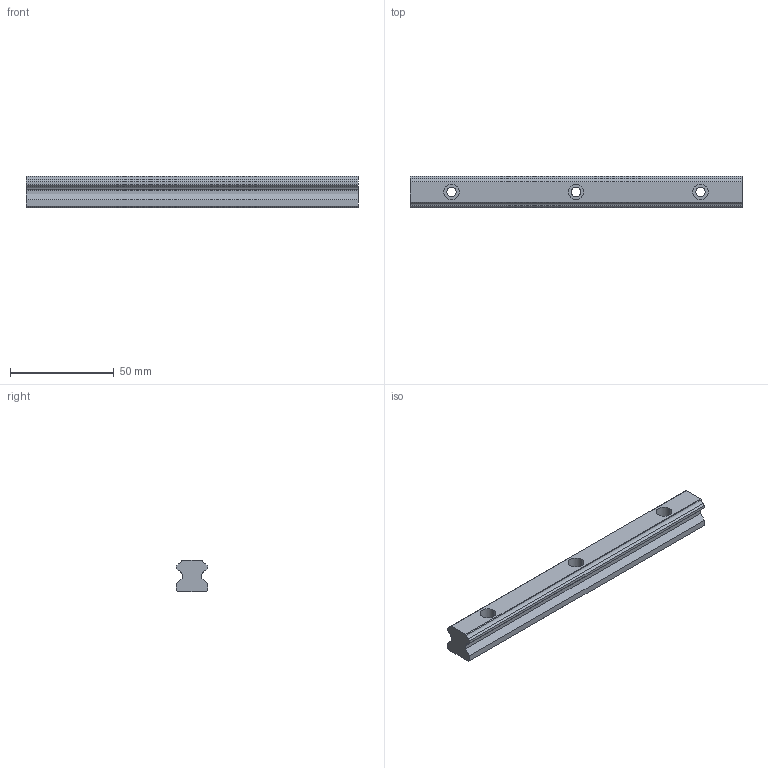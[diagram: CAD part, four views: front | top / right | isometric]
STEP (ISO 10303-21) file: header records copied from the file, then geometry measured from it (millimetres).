
FILE_DESCRIPTION(('starvars output'),'2;1');
FILE_NAME('cv20190626220010000039472.stp','22:00:10 2019/06/26',( 'Thomas Industrial Network Germany GmbH'),( 'Thomas Industrial Network Germany GmbH'),'unknown preprocess','ACIS' ,'unknown authorization');
FILE_SCHEMA(('CONFIG_CONTROL_DESIGN {UNKNOWN IMPLEMENTATION LEVEL}'));
Length unit declared in the file: millimetre
Products named in the file (1): PRODUCT_ID_1
Bounding box: 160 x 15 x 15 mm (x, y, z)
Volume: 29328.3 mm3; surface area: 10882.6 mm2
Topology: 1 solids, 1 shells, 41 faces, 108 edges, 72 vertices
Faces by surface type: plane 25, cylinder 16
Entity records: 1281 total; most frequent: ORIENTED_EDGE 216, CARTESIAN_POINT 203, DIRECTION 186, EDGE_CURVE 108, VECTOR 76, LINE 76, VERTEX_POINT 72, AXIS2_PLACEMENT_3D 55
